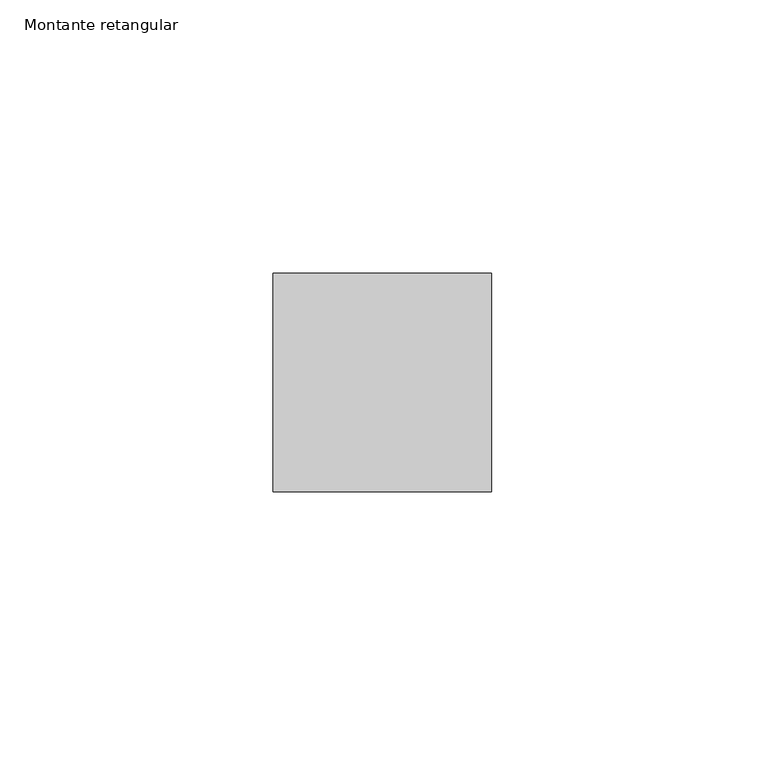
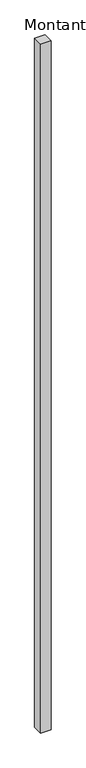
"""IFC4 building model written with IfcOpenShell, lengths in millimetres: member geometry, Montante retangular : RIPADO CUMARU 4x4."""

from ifc_helpers import new_model, si_unit, frame, origin, place, context, project, spatial, polyline, outline, extrude, source, transform, mapped, element, save


def montante_retangular_912e170b(model_context):
    return source(origin(), model_context, "Body", "SweptSolid", [
        extrude(outline(polyline([(20.0, 40.0), (20.0, 0.0), (-20.0, 0.0), (-20.0, 40.0), (20.0, 40.0)])), frame((0.0, 0.0, -2800.0), z_axis=(0.0, 0.0, 1.0), x_axis=(1.0, 0.0, 0.0)), (0.0, 0.0, 1.0), 2800.0),
    ])


if __name__ == "__main__":
    model = new_model("IFC4")
    model_context = context("Model", 3, world=origin())
    ifc_project = project(units=[si_unit("LENGTHUNIT", "METRE", prefix="MILLI")], contexts=[model_context])
    site = spatial("IfcSite", under=ifc_project)
    building = spatial("IfcBuilding", under=site)
    placement = place(None, origin())
    montante_retangular_shape = montante_retangular_912e170b(model_context)
    element("IfcMember", 1, ObjectType="Montante retangular : RIPADO CUMARU 4x4", at=placement, inside=building, context=model_context, shape_type="MappedRepresentation", body=[
        mapped(montante_retangular_shape, transform((0.0, 0.0, 0.0), x_axis=(1.0, 0.0, 0.0), y_axis=(0.0, 1.0, 0.0), z_axis=(0.0, 0.0, 1.0))),
    ])
    save(model, "model.ifc")
